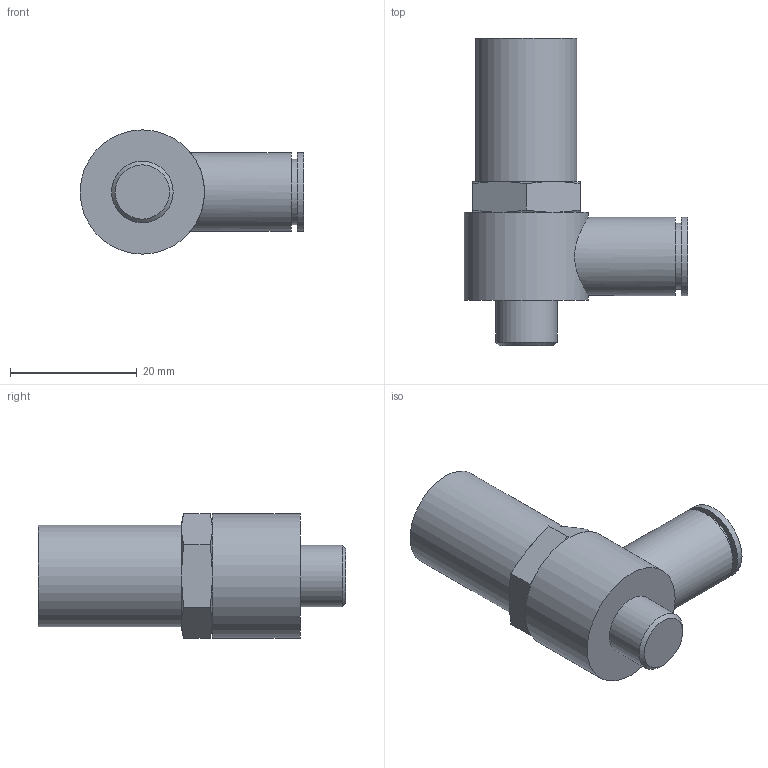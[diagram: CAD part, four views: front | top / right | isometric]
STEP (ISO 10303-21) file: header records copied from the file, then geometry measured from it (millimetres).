
FILE_DESCRIPTION(('STEP AP203'),'1');
FILE_NAME('BCVD-07-601.stp','2025-07-18T01:10:58',(' '),(' '),'Spatial InterOp 3D',' ',' ');
FILE_SCHEMA(('CONFIG_CONTROL_DESIGN'));
Length unit declared in the file: millimetre
Products named in the file (1): 1
Bounding box: 35.31 x 48.6 x 19.63 mm (x, y, z)
Volume: 11947.4 mm3; surface area: 4155.3 mm2
Topology: 1 solids, 1 shells, 35 faces, 66 edges, 40 vertices
Faces by surface type: plane 15, cone 13, cylinder 7
Full cylindrical faces by diameter (mm): 6 x1, 9.728 x1, 10.4 x1, 12.4 x2, 16 x1, 19.63 x1
Entity records: 910 total; most frequent: CARTESIAN_POINT 227, DIRECTION 130, ORIENTED_EDGE 114, AXIS2_PLACEMENT_3D 62, EDGE_CURVE 57, EDGE_LOOP 50, FACE_OUTER_BOUND 42, VERTEX_POINT 39
